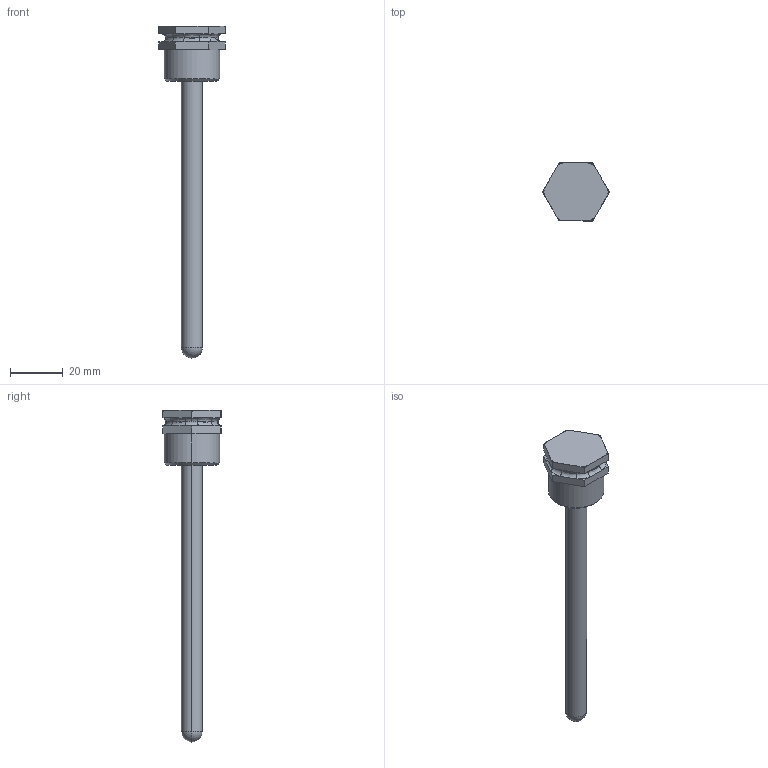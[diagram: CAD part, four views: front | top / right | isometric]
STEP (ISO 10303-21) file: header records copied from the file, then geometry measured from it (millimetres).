
FILE_DESCRIPTION (( 'STEP AP214' ), '1' );
FILE_NAME ('555004.STEP', '2022-03-15T10:49:41', ( '' ), ( '' ), 'SwSTEP 2.0', 'SolidWorks 2021', '' );
FILE_SCHEMA (( 'AUTOMOTIVE_DESIGN' ));
Length unit declared in the file: millimetre
Products named in the file (1): 555004
Bounding box: 25.4 x 22.03 x 126 mm (x, y, z)
Volume: 12831.3 mm3; surface area: 4954.7 mm2
Topology: 1 solids, 1 shells, 116 faces, 271 edges, 157 vertices
Faces by surface type: bspline 48, plane 27, cylinder 23, torus 14, sphere 2, cone 2
Entity records: 6849 total; most frequent: CARTESIAN_POINT 3290, ORIENTED_EDGE 534, DIRECTION 351, EDGE_CURVE 267, VERTEX_POINT 155, AXIS2_PLACEMENT_3D 136, B_SPLINE_CURVE_WITH_KNOTS 121, UNCERTAINTY_MEASURE_WITH_UNIT 119
